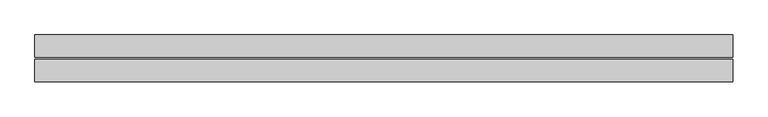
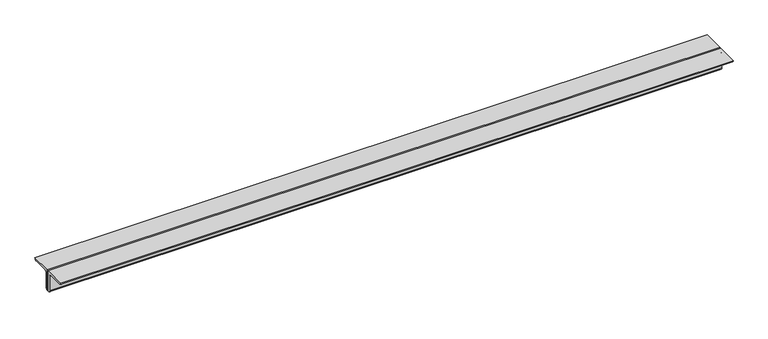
"""IFC4 building model written with IfcOpenShell, lengths in millimetres: beam geometry, Profilati doppi a L : DCED150x12."""

from ifc_helpers import new_model, si_unit, point, frame, frame_2d, origin, place, context, project, spatial, polyline, circle_curve, trimmed, segment, composite_curve, outline, extrude, source, transform, mapped, element, save


def beam_77b3a67a(model_context):
    return source(origin(), model_context, "Body", "SweptSolid", [
        extrude(outline(composite_curve([segment(polyline([(-6.0, 42.4), (-6.0, -107.6)]), True, "CONTINUOUS"), segment(trimmed(circle_curve(frame_2d((-6.0, -92.6)), 15.0), [point((-6.0, -107.6))], [point((-21.0, -92.6))], False, "CARTESIAN"), True, "CONTINUOUS"), segment(polyline([(-21.0, -92.6), (-21.0, 12.4)]), True, "CONTINUOUS"), segment(trimmed(circle_curve(frame_2d((-36.0, 12.4)), 15.0), [point((-21.0, 12.4))], [point((-36.0, 27.4))], True, "CARTESIAN"), True, "CONTINUOUS"), segment(polyline([(-36.0, 27.4), (-141.0, 27.4)]), True, "CONTINUOUS"), segment(trimmed(circle_curve(frame_2d((-141.0, 42.4)), 15.0), [point((-141.0, 27.4))], [point((-156.0, 42.4))], False, "CARTESIAN"), True, "CONTINUOUS"), segment(polyline([(-156.0, 42.4), (-6.0, 42.4)]), True, "CONTINUOUS")], self_intersect=False)), frame((-2080.0, 0.0, 0.0), z_axis=(1.0, 0.0, 0.0), x_axis=(0.0, 1.0, 0.0)), (0.0, 0.0, 1.0), 4655.0),
        extrude(outline(composite_curve([segment(polyline([(6.0, 42.4), (156.0, 42.4)]), True, "CONTINUOUS"), segment(trimmed(circle_curve(frame_2d((141.0, 42.4)), 15.0), [point((156.0, 42.4))], [point((141.0, 27.4))], False, "CARTESIAN"), True, "CONTINUOUS"), segment(polyline([(141.0, 27.4), (36.0, 27.4)]), True, "CONTINUOUS"), segment(trimmed(circle_curve(frame_2d((36.0, 12.4)), 15.0), [point((36.0, 27.4))], [point((21.0, 12.4))], True, "CARTESIAN"), True, "CONTINUOUS"), segment(polyline([(21.0, 12.4), (21.0, -92.6)]), True, "CONTINUOUS"), segment(trimmed(circle_curve(frame_2d((6.0, -92.6)), 15.0), [point((21.0, -92.6))], [point((6.0, -107.6))], False, "CARTESIAN"), True, "CONTINUOUS"), segment(polyline([(6.0, -107.6), (6.0, 42.4)]), True, "CONTINUOUS")], self_intersect=False)), frame((-2080.0, 0.0, 0.0), z_axis=(1.0, 0.0, 0.0), x_axis=(0.0, 1.0, 0.0)), (0.0, 0.0, 1.0), 4655.0),
    ])


if __name__ == "__main__":
    model = new_model("IFC4")
    model_context = context("Model", 3, world=origin())
    ifc_project = project(units=[si_unit("LENGTHUNIT", "METRE", prefix="MILLI")], contexts=[model_context])
    site = spatial("IfcSite", under=ifc_project)
    building = spatial("IfcBuilding", under=site)
    placement = place(None, origin())
    beam_shape = beam_77b3a67a(model_context)
    element("IfcBeam", 1, ObjectType="Profilati doppi a L : DCED150x12", at=placement, inside=building, context=model_context, shape_type="MappedRepresentation", body=[
        mapped(beam_shape, transform((0.0, 0.0, 0.0), x_axis=(1.0, 0.0, 0.0), y_axis=(0.0, 1.0, 0.0), z_axis=(0.0, 0.0, 1.0))),
    ])
    save(model, "model.ifc")
